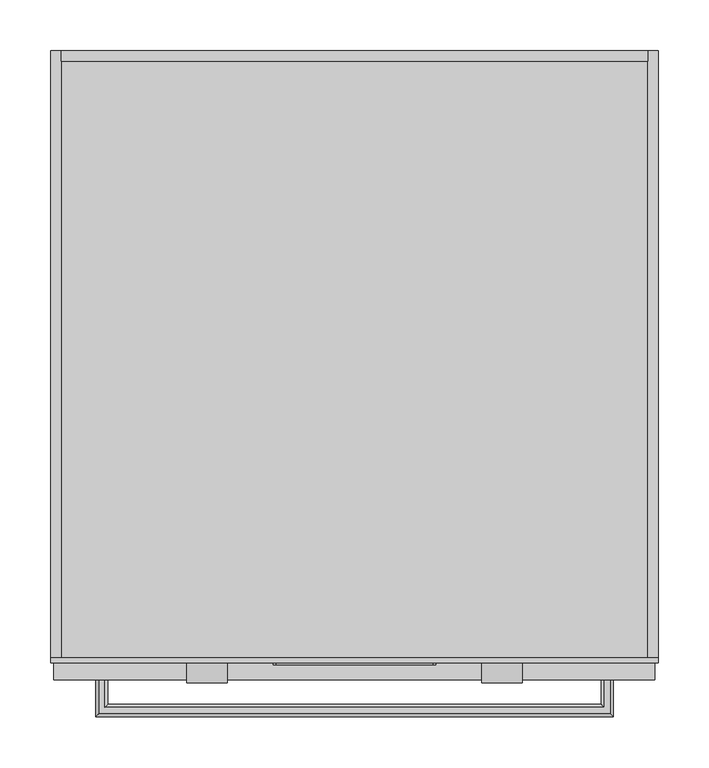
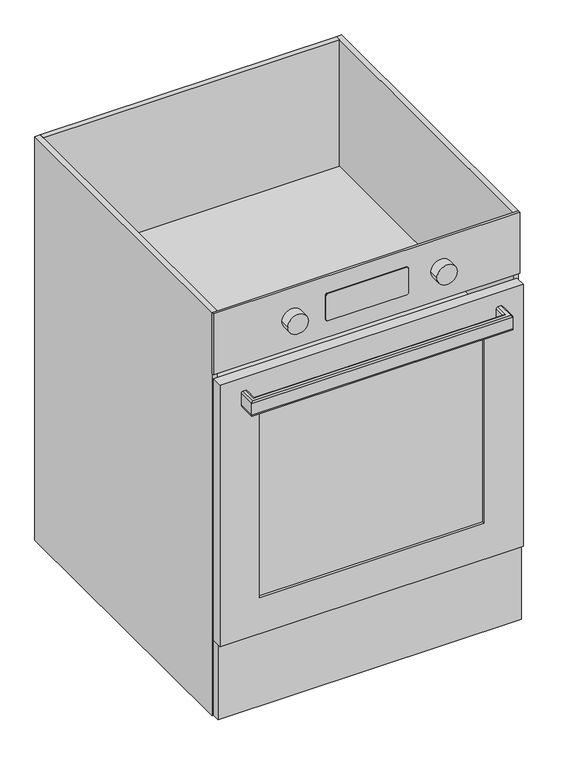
"""IFC4 building model written with IfcOpenShell, lengths in millimetres: proxy geometry, Backofen-Herdplatte-Kombi : 850  x 597  x 597."""

from ifc_helpers import new_model, si_unit, point, frame, frame_2d, origin, origin_with_axes, place, context, project, spatial, polyline, circle_curve, ellipse_curve, trimmed, segment, composite_curve, outline, extrude, source, transform, mapped, element, save
from ifc_brep_helpers import plane_surface, cylinder_surface, advanced_brep


def electrical_equipment_04802fdb(model_context):
    return source(origin(), model_context, "Body", "SolidModel", [
        extrude(outline(polyline([(223.3266118, -314.0), (-213.6733882, -314.0), (-213.6733882, -302.0), (223.3266118, -302.0), (223.3266118, -314.0)])), frame((0.0, 0.0, 229.0), z_axis=(0.0, 0.0, 1.0), x_axis=(1.0, 0.0, 0.0)), (0.0, 0.0, 1.0), 390.0),
        extrude(outline(polyline([(693.0, 300.3266118), (693.0, -290.6733882), (155.0, -290.6733882), (155.0, 300.3266118), (693.0, 300.3266118)]), holes=[polyline([(619.0, -213.6733882), (619.0, 223.3266118), (229.0, 223.3266118), (229.0, -213.6733882), (619.0, -213.6733882)])]), frame((0.0, -319.0, 0.0), z_axis=(0.0, 1.0, 0.0), x_axis=(0.0, 0.0, 1.0)), (0.0, 0.0, 1.0), 22.0),
        extrude(outline(polyline([(293.3266118, 290.0), (293.3266118, -297.0), (-283.6733882, -297.0), (-283.6733882, 290.0), (293.3266118, 290.0)])), frame((0.0, 0.0, 567.5), z_axis=(0.0, 0.0, 1.0), x_axis=(1.0, 0.0, 0.0)), (0.0, 0.0, 1.0), 2.0),
        extrude(outline(polyline([(293.3266118, 290.0), (293.3266118, -297.0), (-283.6733882, -297.0), (-283.6733882, 290.0), (293.3266118, 290.0)])), frame((0.0, 0.0, 430.0), z_axis=(0.0, 0.0, 1.0), x_axis=(1.0, 0.0, 0.0)), (0.0, 0.0, 1.0), 2.0),
        extrude(outline(polyline([(293.3266118, 290.0), (293.3266118, -297.0), (-283.6733882, -297.0), (-283.6733882, 290.0), (293.3266118, 290.0)])), frame((0.0, 0.0, 292.5), z_axis=(0.0, 0.0, 1.0), x_axis=(1.0, 0.0, 0.0)), (0.0, 0.0, 1.0), 2.0),
        extrude(outline(polyline([(300.3266118, -297.0), (300.3266118, -312.0), (-290.6733882, -312.0), (-290.6733882, -297.0), (300.3266118, -297.0)])), origin_with_axes(), (0.0, 0.0, 1.0), 155.0),
        extrude(outline(composite_curve([segment(trimmed(circle_curve(frame_2d((767.5, 149.8266118)), 20.0), [point((767.5, 129.8266118))], [point((767.5, 169.8266118))], False, "CARTESIAN"), True, "CONTINUOUS"), segment(trimmed(circle_curve(frame_2d((767.5, 149.8266118)), 20.0), [point((767.5, 169.8266118))], [point((767.5, 129.8266118))], False, "CARTESIAN"), True, "CONTINUOUS")], self_intersect=False)), frame((0.0, -322.0, 0.0), z_axis=(0.0, 1.0, 0.0), x_axis=(0.0, 0.0, 1.0)), (0.0, 0.0, 1.0), 20.0),
        extrude(outline(composite_curve([segment(trimmed(circle_curve(frame_2d((767.5, -140.1733882)), 20.0), [point((767.5, -120.1733882))], [point((767.5, -160.1733882))], False, "CARTESIAN"), True, "CONTINUOUS"), segment(trimmed(circle_curve(frame_2d((767.5, -140.1733882)), 20.0), [point((767.5, -160.1733882))], [point((767.5, -120.1733882))], False, "CARTESIAN"), True, "CONTINUOUS")], self_intersect=False)), frame((0.0, -322.0, 0.0), z_axis=(0.0, 1.0, 0.0), x_axis=(0.0, 0.0, 1.0)), (0.0, 0.0, 1.0), 20.0),
        extrude(outline(composite_curve([segment(polyline([(795.5, 81.8266118), (795.5, -72.1733882)]), True, "CONTINUOUS"), segment(trimmed(circle_curve(frame_2d((792.5, -72.1733882)), 3.0), [point((795.5, -72.1733882))], [point((792.5, -75.1733882))], False, "CARTESIAN"), True, "CONTINUOUS"), segment(polyline([(792.5, -75.1733882), (742.5, -75.1733882)]), True, "CONTINUOUS"), segment(trimmed(circle_curve(frame_2d((742.5, -72.1733882)), 3.0), [point((742.5, -75.1733882))], [point((739.5, -72.1733882))], False, "CARTESIAN"), True, "CONTINUOUS"), segment(polyline([(739.5, -72.1733882), (739.5, 81.8266118)]), True, "CONTINUOUS"), segment(trimmed(circle_curve(frame_2d((742.5, 81.8266118)), 3.0), [point((739.5, 81.8266118))], [point((742.5, 84.8266118))], False, "CARTESIAN"), True, "CONTINUOUS"), segment(polyline([(742.5, 84.8266118), (792.5, 84.8266118)]), True, "CONTINUOUS"), segment(trimmed(circle_curve(frame_2d((792.5, 81.8266118)), 3.0), [point((792.5, 84.8266118))], [point((795.5, 81.8266118))], False, "CARTESIAN"), True, "CONTINUOUS")], self_intersect=False)), frame((0.0, -304.0, 0.0), z_axis=(0.0, 1.0, 0.0), x_axis=(0.0, 0.0, 1.0)), (0.0, 0.0, 1.0), 2.0),
        extrude(outline(polyline([(303.3266118, -297.0), (303.3266118, -302.0), (-293.6733882, -302.0), (-293.6733882, -297.0), (303.3266118, -297.0)])), frame((0.0, 0.0, 705.0), z_axis=(0.0, 0.0, 1.0), x_axis=(1.0, 0.0, 0.0)), (0.0, 0.0, 1.0), 125.0),
        advanced_brep(
        [(-240.6733882, -319.0, 665.0), (-237.6733882, -319.0, 662.0), (-237.6733882, -319.0, 638.0), (-240.6733882, -319.0, 635.0), (-246.6733882, -319.0, 635.0), (-249.6733882, -319.0, 638.0), (-249.6733882, -319.0, 662.0), (-246.6733882, -319.0, 665.0), (-240.6733882, -346.0, 665.0), (-237.6733882, -343.0, 662.0), (-237.6733882, -343.0, 638.0), (-240.6733882, -346.0, 635.0), (250.3266118, -346.0, 635.0), (250.3266118, -319.0, 635.0), (256.3266118, -319.0, 635.0), (256.3266118, -352.0, 635.0), (-246.6733882, -352.0, 635.0), (-249.6733882, -355.0, 638.0), (-249.6733882, -355.0, 662.0), (-246.6733882, -352.0, 665.0), (256.3266118, -352.0, 665.0), (256.3266118, -319.0, 665.0), (250.3266118, -319.0, 665.0), (250.3266118, -346.0, 665.0), (247.3266118, -343.0, 662.0), (247.3266118, -343.0, 638.0), (259.3266118, -355.0, 638.0), (259.3266118, -355.0, 662.0), (259.3266118, -319.0, 662.0), (259.3266118, -319.0, 638.0), (247.3266118, -319.0, 638.0), (247.3266118, -319.0, 662.0)],
        [
            (0, 1, circle_curve(frame((-240.6733882, -319.0, 662.0), z_axis=(0.0, 1.0, 0.0), x_axis=(1.0, 0.0, 0.0)), 3.0)),
            (1, 2),
            (2, 3, circle_curve(frame((-240.6733882, -319.0, 638.0), z_axis=(0.0, 1.0, 0.0), x_axis=(1.0, 0.0, 0.0)), 3.0)),
            (3, 4),
            (4, 5, circle_curve(frame((-246.6733882, -319.0, 638.0), z_axis=(0.0, 1.0, 0.0), x_axis=(1.0, 0.0, 0.0)), 3.0)),
            (5, 6),
            (6, 7, circle_curve(frame((-246.6733882, -319.0, 662.0), z_axis=(0.0, 1.0, 0.0), x_axis=(1.0, 0.0, 0.0)), 3.0)),
            (7, 0),
            (0, 8),
            (8, 9, ellipse_curve(frame((-240.6733882, -346.0, 662.0), z_axis=(-0.7071067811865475, 0.7071067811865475, 0.0), x_axis=(0.7071067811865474, 0.7071067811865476, 0.0)), 4.2426407, 3.0)),
            (9, 1),
            (9, 10),
            (10, 2),
            (10, 11, ellipse_curve(frame((-240.6733882, -346.0, 638.0), z_axis=(-0.7071067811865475, 0.7071067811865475, 0.0), x_axis=(0.7071067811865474, 0.7071067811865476, 0.0)), 4.2426407, 3.0)),
            (11, 3),
            (11, 12),
            (12, 13),
            (13, 14),
            (14, 15),
            (15, 16),
            (16, 4),
            (16, 17, ellipse_curve(frame((-246.6733882, -352.0, 638.0), z_axis=(-0.7071067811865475, 0.7071067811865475, 0.0), x_axis=(0.7071067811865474, 0.7071067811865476, 0.0)), 4.2426407, 3.0)),
            (17, 5),
            (17, 18),
            (18, 6),
            (18, 19, ellipse_curve(frame((-246.6733882, -352.0, 662.0), z_axis=(-0.7071067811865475, 0.7071067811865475, 0.0), x_axis=(0.7071067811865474, 0.7071067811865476, 0.0)), 4.2426407, 3.0)),
            (19, 7),
            (19, 20),
            (20, 21),
            (21, 22),
            (22, 23),
            (23, 8),
            (23, 24, ellipse_curve(frame((250.3266118, -346.0, 662.0), z_axis=(-0.7071067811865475, -0.7071067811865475, 0.0), x_axis=(-0.7071067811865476, 0.7071067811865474, 0.0)), 4.2426407, 3.0)),
            (24, 9),
            (24, 25),
            (25, 10),
            (25, 12, ellipse_curve(frame((250.3266118, -346.0, 638.0), z_axis=(-0.7071067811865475, -0.7071067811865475, 0.0), x_axis=(-0.7071067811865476, 0.7071067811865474, 0.0)), 4.2426407, 3.0)),
            (15, 26, ellipse_curve(frame((256.3266118, -352.0, 638.0), z_axis=(-0.7071067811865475, -0.7071067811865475, 0.0), x_axis=(-0.7071067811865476, 0.7071067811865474, 0.0)), 4.2426407, 3.0)),
            (26, 17),
            (26, 27),
            (27, 18),
            (27, 20, ellipse_curve(frame((256.3266118, -352.0, 662.0), z_axis=(-0.7071067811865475, -0.7071067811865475, 0.0), x_axis=(-0.7071067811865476, 0.7071067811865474, 0.0)), 4.2426407, 3.0)),
            (21, 28, circle_curve(frame((256.3266118, -319.0, 662.0), z_axis=(0.0, 1.0, 0.0), x_axis=(-1.0, 0.0, 0.0)), 3.0)),
            (28, 29),
            (29, 14, circle_curve(frame((256.3266118, -319.0, 638.0), z_axis=(0.0, 1.0, 0.0), x_axis=(-1.0, 0.0, 0.0)), 3.0)),
            (13, 30, circle_curve(frame((250.3266118, -319.0, 638.0), z_axis=(0.0, 1.0, 0.0), x_axis=(-1.0, 0.0, 0.0)), 3.0)),
            (30, 31),
            (31, 22, circle_curve(frame((250.3266118, -319.0, 662.0), z_axis=(0.0, 1.0, 0.0), x_axis=(-1.0, 0.0, 0.0)), 3.0)),
            (31, 24),
            (30, 25),
            (29, 26),
            (28, 27),
        ],
        [
            plane_surface(frame((-243.6733882, -319.0, 650.0), z_axis=(0.0, 1.0, 0.0), x_axis=(0.0, 0.0, 1.0))),
            cylinder_surface(frame((-240.6733882, -319.0, 662.0), z_axis=(0.0, 1.0, 0.0), x_axis=(1.0, 0.0, 0.0)), 3.0),
            plane_surface(frame((-237.6733882, -319.0, 662.0), z_axis=(1.0, 0.0, 0.0), x_axis=(0.0, -1.0, 0.0))),
            cylinder_surface(frame((-240.6733882, -319.0, 638.0), z_axis=(0.0, 1.0, 0.0), x_axis=(1.0, 0.0, 0.0)), 3.0),
            plane_surface(frame((-240.6733882, -319.0, 635.0), z_axis=(0.0, 0.0, -1.0), x_axis=(0.0, -1.0, 0.0))),
            cylinder_surface(frame((-246.6733882, -319.0, 638.0), z_axis=(0.0, 1.0, 0.0), x_axis=(1.0, 0.0, 0.0)), 3.0),
            plane_surface(frame((-249.6733882, -319.0, 638.0), z_axis=(-1.0, 0.0, 0.0), x_axis=(0.0, -1.0, 0.0))),
            cylinder_surface(frame((-246.6733882, -319.0, 662.0), z_axis=(0.0, 1.0, 0.0), x_axis=(1.0, 0.0, 0.0)), 3.0),
            plane_surface(frame((-246.6733882, -319.0, 665.0), z_axis=(0.0, 0.0, 1.0), x_axis=(0.0, -1.0, 0.0))),
            cylinder_surface(frame((-243.6733882, -346.0, 662.0), z_axis=(-1.0, 0.0, 0.0), x_axis=(0.0, 1.0, 0.0)), 3.0),
            plane_surface(frame((-237.6733882, -343.0, 662.0), z_axis=(0.0, 1.0, 0.0), x_axis=(1.0, 0.0, 0.0))),
            cylinder_surface(frame((-243.6733882, -346.0, 638.0), z_axis=(-1.0, 0.0, 0.0), x_axis=(0.0, 1.0, 0.0)), 3.0),
            cylinder_surface(frame((-243.6733882, -352.0, 638.0), z_axis=(-1.0, 0.0, 0.0), x_axis=(0.0, 1.0, 0.0)), 3.0),
            plane_surface(frame((-249.6733882, -355.0, 638.0), z_axis=(0.0, -1.0, 0.0), x_axis=(1.0, 0.0, 0.0))),
            cylinder_surface(frame((-243.6733882, -352.0, 662.0), z_axis=(-1.0, 0.0, 0.0), x_axis=(0.0, 1.0, 0.0)), 3.0),
            plane_surface(frame((253.3266118, -319.0, 650.0), z_axis=(0.0, 1.0, 0.0), x_axis=(0.0, 0.0, 1.0))),
            cylinder_surface(frame((250.3266118, -349.0, 662.0), z_axis=(0.0, -1.0, 0.0), x_axis=(-1.0, 0.0, 0.0)), 3.0),
            plane_surface(frame((247.3266118, -343.0, 662.0), z_axis=(-1.0, 0.0, 0.0), x_axis=(0.0, 1.0, 0.0))),
            cylinder_surface(frame((250.3266118, -349.0, 638.0), z_axis=(0.0, -1.0, 0.0), x_axis=(-1.0, 0.0, 0.0)), 3.0),
            cylinder_surface(frame((256.3266118, -349.0, 638.0), z_axis=(0.0, -1.0, 0.0), x_axis=(-1.0, 0.0, 0.0)), 3.0),
            plane_surface(frame((259.3266118, -355.0, 638.0), z_axis=(1.0, 0.0, 0.0), x_axis=(0.0, 1.0, 0.0))),
            cylinder_surface(frame((256.3266118, -349.0, 662.0), z_axis=(0.0, -1.0, 0.0), x_axis=(-1.0, 0.0, 0.0)), 3.0),
        ],
        [
            (0, [[1, 2, 3, 4, 5, 6, 7, 8]]),
            (1, [[-1, 9, 10, 11]]),
            (2, [[-2, -11, 12, 13]]),
            (3, [[-3, -13, 14, 15]]),
            (4, [[-4, -15, 16, 17, 18, 19, 20, 21]]),
            (5, [[-5, -21, 22, 23]]),
            (6, [[-6, -23, 24, 25]]),
            (7, [[-7, -25, 26, 27]]),
            (8, [[-8, -27, 28, 29, 30, 31, 32, -9]]),
            (9, [[-10, -32, 33, 34]]),
            (10, [[-12, -34, 35, 36]]),
            (11, [[-14, -36, 37, -16]]),
            (12, [[-22, -20, 38, 39]]),
            (13, [[-24, -39, 40, 41]]),
            (14, [[-26, -41, 42, -28]]),
            (15, [[-30, 43, 44, 45, -18, 46, 47, 48]]),
            (16, [[-33, -31, -48, 49]]),
            (17, [[-35, -49, -47, 50]]),
            (18, [[-37, -50, -46, -17]]),
            (19, [[-38, -19, -45, 51]]),
            (20, [[-40, -51, -44, 52]]),
            (21, [[-42, -52, -43, -29]]),
        ],
    ),
        extrude(outline(polyline([(293.3266118, 300.0), (293.3266118, 290.0), (-283.6733882, 290.0), (-283.6733882, 300.0), (293.3266118, 300.0)])), origin_with_axes(), (0.0, 0.0, 1.0), 830.0),
        extrude(outline(polyline([(293.3266118, 290.0), (293.3266118, -297.0), (-283.6733882, -297.0), (-283.6733882, 290.0), (293.3266118, 290.0)])), origin_with_axes(), (0.0, 0.0, 1.0), 20.0),
        extrude(outline(polyline([(-283.6733882, 300.0), (-283.6733882, -297.0), (-293.6733882, -297.0), (-293.6733882, 300.0), (-283.6733882, 300.0)])), origin_with_axes(), (0.0, 0.0, 1.0), 830.0),
        extrude(outline(polyline([(303.3266118, 300.0), (303.3266118, -297.0), (293.3266118, -297.0), (293.3266118, 300.0), (303.3266118, 300.0)])), origin_with_axes(), (0.0, 0.0, 1.0), 830.0),
    ])


if __name__ == "__main__":
    model = new_model("IFC4")
    model_context = context("Model", 3, world=origin())
    ifc_project = project(units=[si_unit("LENGTHUNIT", "METRE", prefix="MILLI")], contexts=[model_context])
    site = spatial("IfcSite", under=ifc_project)
    building = spatial("IfcBuilding", under=site)
    placement = place(None, origin())
    electrical_equipment_shape = electrical_equipment_04802fdb(model_context)
    element("IfcBuildingElementProxy", 1, Name="Backofen-Herdplatte-Kombi : 850  x 597  x 597", ObjectType="Backofen-Herdplatte-Kombi : 850  x 597  x 597", at=placement, inside=building, context=model_context, shape_type="MappedRepresentation", body=[
        mapped(electrical_equipment_shape, transform((0.0, 0.0, 0.0), x_axis=(1.0, 0.0, 0.0), y_axis=(0.0, 1.0, 0.0), z_axis=(0.0, 0.0, 1.0))),
    ])
    save(model, "model.ifc")
